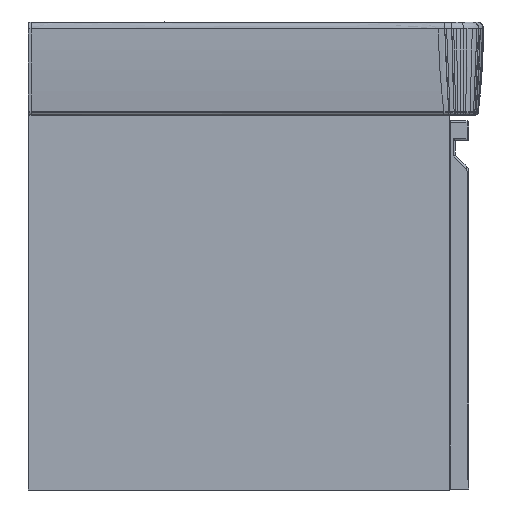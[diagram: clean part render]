
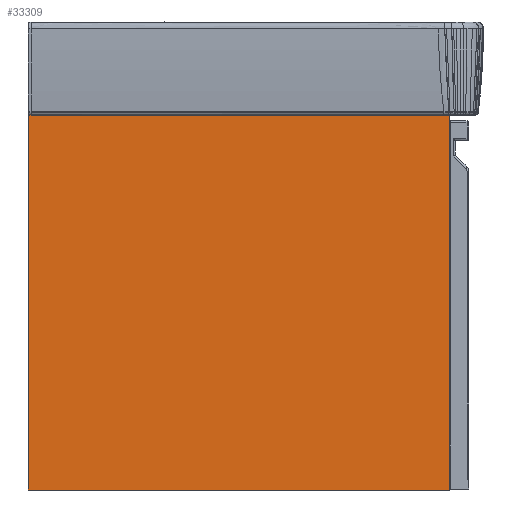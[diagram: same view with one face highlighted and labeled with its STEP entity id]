
A CAD part, left-side view. The second image highlights one B-rep face of the part: STEP entity #33309.
In plain terms, the highlighted planar face has unit normal (-1, 0, 0).
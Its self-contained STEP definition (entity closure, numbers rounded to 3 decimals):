
#893=PLANE('',#37701);
#2342=LINE('',#221606,#3797);
#2343=LINE('',#221609,#3798);
#2344=LINE('',#221611,#3799);
#2345=LINE('',#221612,#3800);
#3797=VECTOR('',#43709,430.);
#3798=VECTOR('',#43712,387.);
#3799=VECTOR('',#43713,430.);
#3800=VECTOR('',#43714,387.);
#6616=FACE_OUTER_BOUND('',#8090,.T.);
#8090=EDGE_LOOP('',(#30085,#30086,#30087,#30088));
#16926=VERTEX_POINT('',#221599);
#16929=VERTEX_POINT('',#221604);
#16930=VERTEX_POINT('',#221608);
#16931=VERTEX_POINT('',#221610);
#22872=EDGE_CURVE('',#16929,#16926,#2342,.T.);
#22873=EDGE_CURVE('',#16930,#16929,#2343,.T.);
#22874=EDGE_CURVE('',#16931,#16930,#2344,.T.);
#22875=EDGE_CURVE('',#16931,#16926,#2345,.T.);
#30085=ORIENTED_EDGE('',*,*,#22872,.F.);
#30086=ORIENTED_EDGE('',*,*,#22873,.F.);
#30087=ORIENTED_EDGE('',*,*,#22874,.F.);
#30088=ORIENTED_EDGE('',*,*,#22875,.T.);
#33309=ADVANCED_FACE('',(#6616),#893,.T.);
#37701=AXIS2_PLACEMENT_3D('',#221607,#43710,#43711);
#43709=DIRECTION('',(0.,-1.,0.));
#43710=DIRECTION('center_axis',(-1.,0.,0.));
#43711=DIRECTION('ref_axis',(0.,0.,1.));
#43712=DIRECTION('',(0.,0.,1.));
#43713=DIRECTION('',(0.,1.,0.));
#43714=DIRECTION('',(0.,0.,1.));
#221599=CARTESIAN_POINT('',(-7839.826,-10833.817,-1478.291));
#221604=CARTESIAN_POINT('',(-7839.826,-10403.817,-1478.291));
#221606=CARTESIAN_POINT('',(-7839.826,-10403.817,-1478.291));
#221607=CARTESIAN_POINT('Origin',(-7839.826,-10403.817,-1865.291));
#221608=CARTESIAN_POINT('',(-7839.826,-10403.817,-1865.291));
#221609=CARTESIAN_POINT('',(-7839.826,-10403.817,-1865.291));
#221610=CARTESIAN_POINT('',(-7839.826,-10833.817,-1865.291));
#221611=CARTESIAN_POINT('',(-7839.826,-10833.817,-1865.291));
#221612=CARTESIAN_POINT('',(-7839.826,-10833.817,-1865.291));
